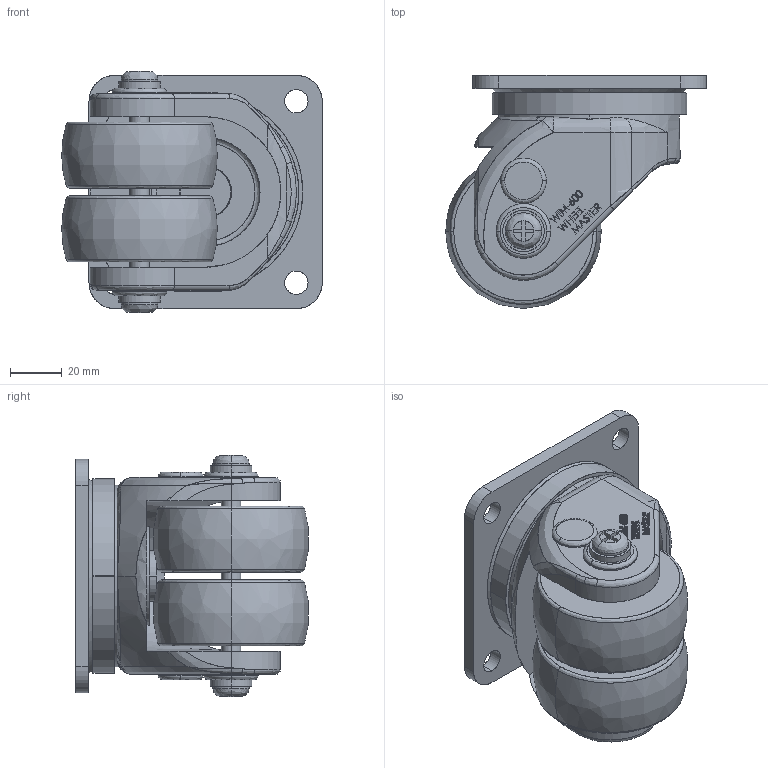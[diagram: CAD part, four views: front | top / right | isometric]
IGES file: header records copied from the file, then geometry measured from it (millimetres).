
Start section: SolidWorks IGES file using analytic representation for surfaces
Bounding box: 100.5 x 89.81 x 93 mm (x, y, z)
Surface area: 82056.2 mm2 (no closed solid volume)
Topology: 0 solids, 0 shells, 650 faces, 8603 edges, 8599 vertices
Faces by surface type: bspline 555, revolution 95
